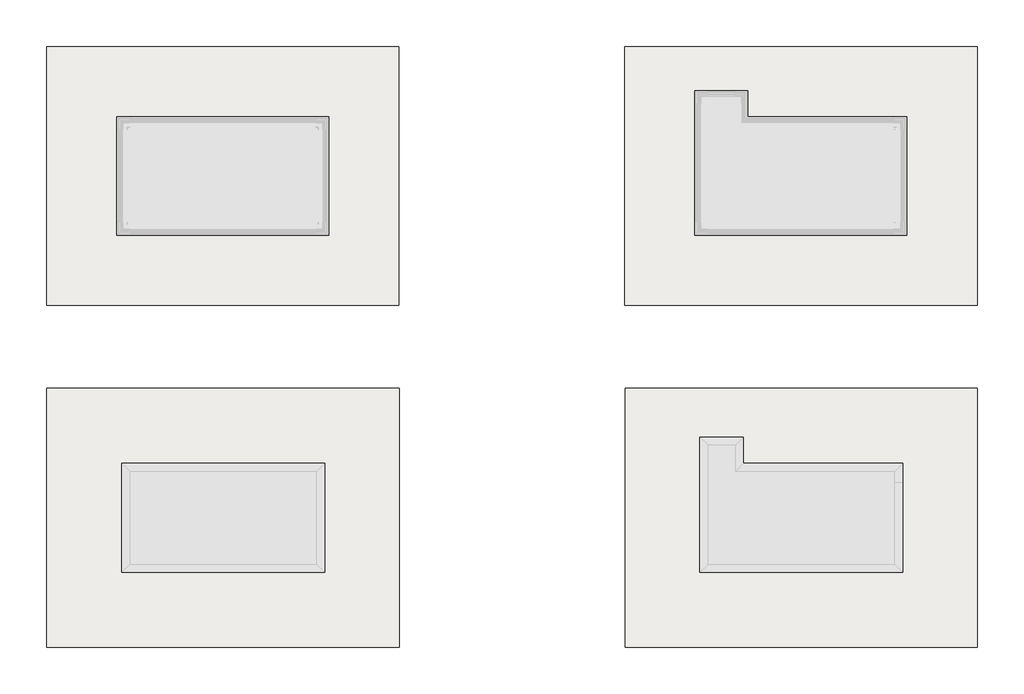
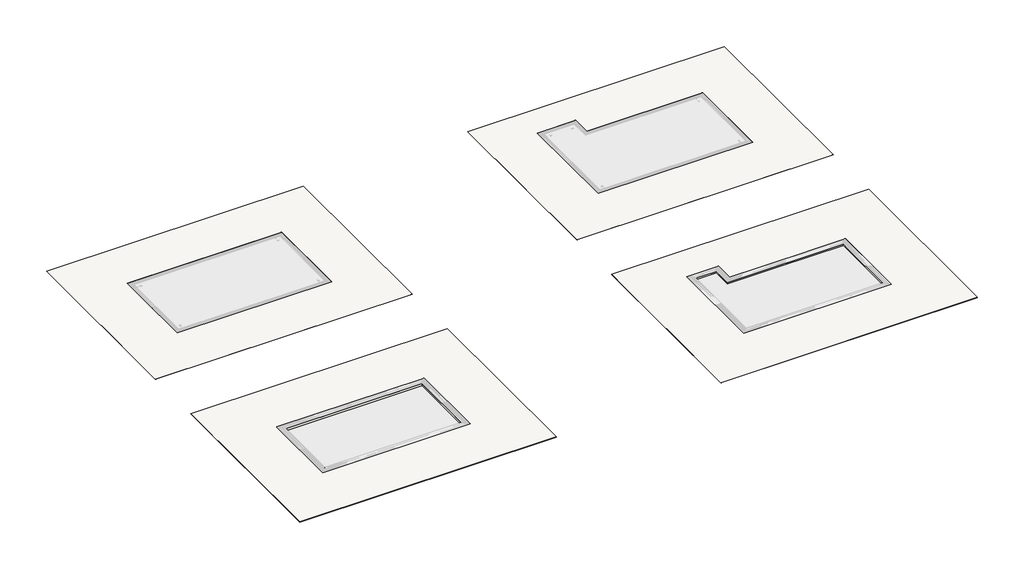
# One storey, part 1 of 8: 21 walls, 8 slabs, 2 stair flights.
"""IFC4 building model written with IfcOpenShell, lengths in millimetres."""

import ifcopenshell
import ifcopenshell.guid

model = None  # the IFC model being written
_history = None  # IfcOwnerHistory: only IFC2X3 demands one
_inside = {}  # id of a spatial element -> (the spatial element, [elements in it])
_under = {}  # id of a project, library or spatial element -> (it, [spatial elements below it])
_declared = {}  # id of a project -> (the project, [libraries it declares])
_typed = {}  # id of a type object -> (the type object, [elements of that type])
_made_of = {}  # id of a material, layer set ... -> (it, [elements and type objects made of it])


def new_model(schema):
    """Start an empty IFC model of exactly this schema.

    Asked for "IFC4X3", IfcOpenShell would pick the latest addendum, in which some entities
    have other attributes; the version numbers below select the first issue.
    IFC2X3 requires an IfcOwnerHistory on every rooted entity: one is made here for all.
    """
    global model, _history
    if schema == "IFC4X3":
        model = ifcopenshell.file(schema_version=(4, 3, 0, 0))
    else:
        model = ifcopenshell.file(schema=schema)
    _inside.clear()
    _under.clear()
    _declared.clear()
    _typed.clear()
    _made_of.clear()
    _history = None
    if model.schema == "IFC2X3":
        org = make("IfcOrganization", Name="unknown")
        user = make(
            "IfcPersonAndOrganization",
            ThePerson=make("IfcPerson", FamilyName="unknown"),
            TheOrganization=org,
        )
        app = make(
            "IfcApplication",
            ApplicationDeveloper=org,
            Version="unknown",
            ApplicationFullName="unknown",
            ApplicationIdentifier="unknown",
        )
        _history = make(
            "IfcOwnerHistory",
            OwningUser=user,
            OwningApplication=app,
            ChangeAction="ADDED",
            CreationDate=0,
        )
    return model


def make(cls, **values):
    """One entity of the class cls with the attributes given. An attribute that is None is left unset."""
    return model.create_entity(
        cls, **{name: value for name, value in values.items() if value is not None}
    )


def rooted(cls, **values):
    """An entity with a GlobalId (a new one), such as an element, a storey or a relation."""
    return make(cls, GlobalId=ifcopenshell.guid.new(), OwnerHistory=_history, **values)


def si_unit(unit_type, name, prefix=None):
    """IfcSIUnit, for example si_unit("LENGTHUNIT", "METRE", prefix="MILLI")."""
    return make("IfcSIUnit", UnitType=unit_type, Prefix=prefix, Name=name)


def assignment(units):
    """IfcUnitAssignment: the units of a project."""
    return None if units is None else make("IfcUnitAssignment", Units=units)


def point(xyz):
    """IfcCartesianPoint."""
    return None if xyz is None else make("IfcCartesianPoint", Coordinates=xyz)


def direction(xyz):
    """IfcDirection."""
    return None if xyz is None else make("IfcDirection", DirectionRatios=xyz)


def frame(location, z_axis=None, x_axis=None):
    """IfcAxis2Placement3D, a coordinate frame: its origin and axes. An axis left out is left unset."""
    return make(
        "IfcAxis2Placement3D",
        Location=point(location),
        Axis=direction(z_axis),
        RefDirection=direction(x_axis),
    )


def origin():
    """The frame at (0, 0, 0) with its axes left unset."""
    return frame((0.0, 0.0, 0.0))


def place(relative_to, where):
    """IfcLocalPlacement: puts the frame where relative to a parent placement (None: the world)."""
    return make(
        "IfcLocalPlacement", PlacementRelTo=relative_to, RelativePlacement=where
    )


def context(
    kind, dimensions, precision=None, world=None, true_north=None, identifier=None
):
    """IfcGeometricRepresentationContext, for example the 3D "Model" context."""
    return make(
        "IfcGeometricRepresentationContext",
        ContextIdentifier=identifier,
        ContextType=kind,
        CoordinateSpaceDimension=dimensions,
        Precision=precision,
        WorldCoordinateSystem=world,
        TrueNorth=true_north,
    )


def project(units=None, contexts=None):
    """IfcProject with its units and contexts."""
    return rooted(
        "IfcProject",
        Name="project",
        RepresentationContexts=contexts,
        UnitsInContext=assignment(units),
    )


def spatial(cls, under=None, at=None, **own):
    """A site, building, storey or space (cls), placed at a placement, below another one or the project."""
    s = rooted(cls, ObjectPlacement=at, **own)
    if under is not None:
        _under.setdefault(under.id(), (under, []))[1].append(s)
    return s


def polyline(points):
    """IfcPolyline through the points."""
    return make("IfcPolyline", Points=[point(p) for p in points])


def outline(outer, holes=None, kind="AREA"):
    """IfcArbitraryClosedProfileDef: a profile drawn as a closed curve; with holes, ...WithVoids."""
    if holes is None:
        return make("IfcArbitraryClosedProfileDef", ProfileType=kind, OuterCurve=outer)
    return make(
        "IfcArbitraryProfileDefWithVoids",
        ProfileType=kind,
        OuterCurve=outer,
        InnerCurves=holes,
    )


def extrude(swept, where, along, depth):
    """IfcExtrudedAreaSolid: the profile swept, set in the frame where, extruded along a direction by depth."""
    return make(
        "IfcExtrudedAreaSolid",
        SweptArea=swept,
        Position=where,
        ExtrudedDirection=direction(along),
        Depth=depth,
    )


def faces_of(points, faces, orient=None, outer=None):
    """IfcFace entities. A face is a list of loops; a loop is a list of indices into points, from 0.

    orient and outer hold one flag for each loop. By default every Orientation is true, the
    first loop of a face is its IfcFaceOuterBound and the others are IfcFaceBound.
    """
    made = []
    for i, loops in enumerate(faces):
        bounds = []
        for j, loop in enumerate(loops):
            is_outer = j == 0 if outer is None else outer[i][j]
            bounds.append(
                make(
                    "IfcFaceOuterBound" if is_outer else "IfcFaceBound",
                    Bound=make("IfcPolyLoop", Polygon=[points[k] for k in loop]),
                    Orientation=True if orient is None else orient[i][j],
                )
            )
        made.append(make("IfcFace", Bounds=bounds))
    return made


def faceted_brep(points, faces, orient=None, outer=None, voids=None):
    """IfcFacetedBrep: a solid bounded by flat faces; with voids (closed shells), ...WithVoids."""
    shared = [point(p) for p in points]
    hull = make("IfcClosedShell", CfsFaces=faces_of(shared, faces, orient, outer))
    if voids is None:
        return make("IfcFacetedBrep", Outer=hull)
    return make(
        "IfcFacetedBrepWithVoids",
        Outer=hull,
        Voids=[
            make(cls, CfsFaces=faces_of(shared, fs, o, b)) for cls, fs, o, b in voids
        ],
    )


def shape(context_of_items, identifier, shape_type, items):
    """IfcShapeRepresentation: the items that make up one representation, for example the "Body"."""
    return make(
        "IfcShapeRepresentation",
        ContextOfItems=context_of_items,
        RepresentationIdentifier=identifier,
        RepresentationType=shape_type,
        Items=items,
    )


def made_of(thing, what):
    """Note that an element or type object is made of a material, layer set ...; save() writes the relation."""
    if what is not None:
        _made_of.setdefault(what.id(), (what, []))[1].append(thing)
    return thing


def element(
    cls,
    number,
    at=None,
    inside=None,
    cuts=None,
    type_object=None,
    material=None,
    context=None,
    identifier="Body",
    shape_type=None,
    held_by="IfcProductDefinitionShape",
    body=None,
    shapes=None,
    **own,
):
    """One element of the class cls, such as IfcWall. Its Tag is "e" and its number.

    at: its placement. inside: the storey or other place that contains it. cuts: it is an
    opening in that element (IfcRelVoidsElement). A single representation is given by context,
    identifier, shape_type and body (its items); several are given by shapes. held_by: the class
    of the entity that holds the representations. save() writes the other relations.
    """
    e = rooted(cls, Tag="e%d" % number, ObjectPlacement=at, **own)
    if body is not None:
        shapes = [shape(context, identifier, shape_type, body)]
    if shapes is not None:
        e.Representation = make(held_by, Representations=shapes)
    if inside is not None:
        _inside.setdefault(inside.id(), (inside, []))[1].append(e)
    if cuts is not None:
        rooted(
            "IfcRelVoidsElement", RelatingBuildingElement=cuts, RelatedOpeningElement=e
        )
    if type_object is not None:
        _typed.setdefault(type_object.id(), (type_object, []))[1].append(e)
    return made_of(e, material)


def aggregate(whole, parts):
    """IfcRelAggregates: a whole, such as a stair, and the parts it consists of."""
    return rooted("IfcRelAggregates", RelatingObject=whole, RelatedObjects=parts)


def save(model, path):
    """Write the relations noted so far, then the file.

    IfcRelAggregates (storeys below a building ...), IfcRelContainedInSpatialStructure (elements
    in a storey), IfcRelDefinesByType, IfcRelAssociatesMaterial and IfcRelDeclares: one each for
    every whole, place, type object, material and project.
    """
    for whole, parts in _under.values():
        aggregate(whole, parts)
    for where, things in _inside.values():
        rooted(
            "IfcRelContainedInSpatialStructure",
            RelatedElements=things,
            RelatingStructure=where,
        )
    for kind, things in _typed.values():
        rooted("IfcRelDefinesByType", RelatedObjects=things, RelatingType=kind)
    for what, things in _made_of.values():
        rooted("IfcRelAssociatesMaterial", RelatedObjects=things, RelatingMaterial=what)
    for by, libraries in _declared.values():
        rooted("IfcRelDeclares", RelatingContext=by, RelatedDefinitions=libraries)
    model.write(path)


model = new_model("IFC4")

# Units and contexts
model_context = context("Model", 3, world=origin())
ifc_project = project(units=[si_unit("LENGTHUNIT", "METRE", prefix="MILLI")], contexts=[model_context])

# Site, building, storey
site = spatial("IfcSite", under=ifc_project)
building = spatial("IfcBuilding", under=site)
storey = spatial("IfcBuildingStorey", under=building, Name="EXAGRES_Serie ROCA POLAR_Piscinas_ejemplo", Elevation=14000.0)

# Slabs
placement = place(None, origin())
element("IfcSlab", 1, ObjectType="Exagres_Roca_Polar_Piscina_33x66,5_C3", at=placement, inside=storey, context=model_context, shape_type="Brep", body=[
    faceted_brep([(-3428.0785975, -5397.8174758, 12490.0), (-3428.0785975, -5397.8174758, 12500.0), (-3428.0785975, -9857.8197013, 12500.0), (-3428.0785975, -9857.8197013, 12490.0), (-5658.0797103, -9857.8197013, 12500.0), (-9658.0797103, -9857.8197013, 13500.0), (-11888.0808231, -9857.8197013, 13500.0), (-11888.0808231, -9857.8197013, 13490.0), (-9658.0797103, -9857.8197013, 13490.0), (-5658.0797103, -9857.8197013, 12490.0), (-11888.0808231, -5397.8174758, 13500.0), (-11888.0808231, -5397.8174758, 13490.0), (-9658.0797103, -5397.8174758, 13500.0), (-5658.0797103, -5397.8174758, 12500.0), (-5658.0797103, -5397.8174758, 12490.0), (-9658.0797103, -5397.8174758, 13490.0), (-9658.0797103, -9627.8185886, 13500.0), (-5658.0797103, -9627.8185886, 12500.0)], [[[0, 1, 2, 3]], [[3, 2, 4, 5, 6, 7, 8, 9]], [[7, 6, 10, 11]], [[11, 10, 12, 13, 1, 0, 14, 15]], [[10, 6, 5, 16, 12]], [[11, 15, 8, 7]], [[2, 1, 13, 17, 4]], [[3, 9, 14, 0]], [[5, 4, 17, 13, 12, 16]], [[8, 15, 14, 9]]]),
])
element("IfcSlab", 2, ObjectType="Exagres_Roca_Polar_Base_33x66,5_C3", at=placement, inside=storey, context=model_context, shape_type="SweptSolid", body=[
    extrude(outline(polyline([(-128.0785975, -2097.8174758), (-128.0785975, -13157.8197013), (-15188.0808231, -13157.8197013), (-15188.0808231, -2097.8174758), (-128.0785975, -2097.8174758)]), holes=[polyline([(-3128.0785975, -5097.8174758), (-12188.0808231, -5097.8174758), (-12188.0808231, -10157.8197013), (-3128.0785975, -10157.8197013), (-3128.0785975, -5097.8174758)])]), frame((0.0, 0.0, 14020.0), z_axis=(0.0, 0.0, 1.0), x_axis=(1.0, 0.0, 0.0)), (0.0, 0.0, 1.0), 10.0),
])
element("IfcSlab", 3, ObjectType="Exagres_Roca_Polar_Piscina_33x66,5_C3", at=placement, inside=storey, context=model_context, shape_type="SweptSolid", body=[
    extrude(outline(polyline([(12490.0, 21271.9214025), (12500.0, 21271.9214025), (12500.0, 19041.9202897), (13500.0, 15041.9202897), (13500.0, 12811.9191769), (13490.0, 12811.9191769), (13490.0, 15041.9202897), (12490.0, 19041.9202897), (12490.0, 21271.9214025)])), frame((0.0, -9857.8197013, 0.0), z_axis=(0.0, 1.0, 0.0), x_axis=(0.0, 0.0, 1.0)), (0.0, 0.0, 1.0), 4460.0022255),
])
element("IfcSlab", 4, ObjectType="Exagres_Roca_Polar_Base_33x66,5_C3", at=placement, inside=storey, context=model_context, shape_type="SweptSolid", body=[
    extrude(outline(polyline([(24571.9214025, -2097.8174758), (24571.9214025, -13157.8197013), (9511.9191769, -13157.8197013), (9511.9191769, -2097.8174758), (24571.9214025, -2097.8174758)]), holes=[polyline([(21571.9214025, -5097.8174758), (14771.9214025, -5097.8174758), (14771.9214025, -3977.8185886), (12511.9191769, -3977.8185886), (12511.9191769, -10157.8197013), (21571.9214025, -10157.8197013), (21571.9214025, -5097.8174758)])]), frame((0.0, 0.0, 14020.0), z_axis=(0.0, 0.0, 1.0), x_axis=(1.0, 0.0, 0.0)), (0.0, 0.0, 1.0), 10.0),
])
element("IfcSlab", 5, ObjectType="Exagres_Roca_Polar_Piscina_33x66,5_C3", at=placement, inside=storey, context=model_context, shape_type="SweptSolid", body=[
    extrude(outline(polyline([(12490.0, -3410.0562124), (12500.0, -3410.0562124), (12500.0, -5640.0573251), (13500.0, -9640.0573251), (13500.0, -11870.0584379), (13490.0, -11870.0584379), (13490.0, -9640.0573251), (12490.0, -5640.0573251), (12490.0, -3410.0562124)])), frame((0.0, -24466.0925734, 0.0), z_axis=(0.0, 1.0, 0.0), x_axis=(0.0, 0.0, 1.0)), (0.0, 0.0, 1.0), 4460.0022255),
])
element("IfcSlab", 6, ObjectType="Exagres_Roca_Polar_Base_33x33_C3", at=placement, inside=storey, context=model_context, shape_type="SweptSolid", body=[
    extrude(outline(polyline([(-110.0562124, -16706.0903478), (-110.0562124, -27766.0925734), (-15170.0584379, -27766.0925734), (-15170.0584379, -16706.0903478), (-110.0562124, -16706.0903478)]), holes=[polyline([(-3310.0573251, -19906.0914606), (-11970.0573251, -19906.0914606), (-11970.0573251, -24566.0914606), (-3310.0573251, -24566.0914606), (-3310.0573251, -19906.0914606)])]), frame((0.0, 0.0, 14020.0), z_axis=(0.0, 0.0, 1.0), x_axis=(1.0, 0.0, 0.0)), (0.0, 0.0, 1.0), 10.0),
])
element("IfcSlab", 7, ObjectType="Exagres_Roca_Polar_Piscina_33x66,5_C3", at=placement, inside=storey, context=model_context, shape_type="Brep", body=[
    faceted_brep([(21289.9437876, -20006.0903478, 12490.0), (21289.9437876, -20006.0903478, 12500.0), (21289.9437876, -24466.0925734, 12500.0), (21289.9437876, -24466.0925734, 12490.0), (19059.9426749, -24466.0925734, 12500.0), (15059.9426749, -24466.0925734, 13500.0), (12829.9415621, -24466.0925734, 13500.0), (12829.9415621, -24466.0925734, 13490.0), (15059.9426749, -24466.0925734, 13490.0), (19059.9426749, -24466.0925734, 12490.0), (12829.9415621, -20006.0903478, 13500.0), (12829.9415621, -20006.0903478, 13490.0), (15059.9426749, -20006.0903478, 13500.0), (19059.9426749, -20006.0903478, 12500.0), (19059.9426749, -20006.0903478, 12490.0), (15059.9426749, -20006.0903478, 13490.0), (15059.9426749, -24461.0914606, 13500.0), (15059.9426749, -24236.0914606, 13500.0), (15059.9426749, -20236.0914606, 13500.0), (15059.9426749, -20011.0914606, 13500.0), (15059.9426749, -24236.0914606, 13490.0), (15059.9426749, -24461.0914606, 13490.0), (19059.9426749, -20011.0914606, 12500.0), (19059.9426749, -20236.0914606, 12500.0)], [[[0, 1, 2, 3]], [[3, 2, 4, 5, 6, 7, 8, 9]], [[7, 6, 10, 11]], [[11, 10, 12, 13, 1, 0, 14, 15]], [[10, 6, 5, 16, 17, 18, 19, 12]], [[11, 15, 20, 21, 8, 7]], [[2, 1, 13, 22, 23, 4]], [[3, 9, 14, 0]], [[5, 4, 23, 22, 13, 12, 19, 18, 17, 16]], [[8, 21, 20, 15, 14, 9]]]),
])
element("IfcSlab", 8, ObjectType="Exagres_Roca_Polar_Base_33x33_C3", at=placement, inside=storey, context=model_context, shape_type="SweptSolid", body=[
    extrude(outline(polyline([(24589.9437876, -16706.0903478), (24589.9437876, -27766.0925734), (9529.9415621, -27766.0925734), (9529.9415621, -16706.0903478), (24589.9437876, -16706.0903478)]), holes=[polyline([(21389.9426749, -19906.0914606), (14589.9426749, -19906.0914606), (14589.9426749, -18786.0914606), (12729.9426749, -18786.0914606), (12729.9426749, -24566.0914606), (21389.9426749, -24566.0914606), (21389.9426749, -19906.0914606)])]), frame((0.0, 0.0, 14020.0), z_axis=(0.0, 0.0, 1.0), x_axis=(1.0, 0.0, 0.0)), (0.0, 0.0, 1.0), 10.0),
])

# Stair flights
element("IfcStairFlight", 9, ObjectType="EXAGRES_Recto - Roca Polar C3", at=placement, inside=storey, context=model_context, shape_type="SolidModel", body=[
    faceted_brep([(13041.9202897, -5332.8185886, 13585.0), (13041.9202897, -5612.8185886, 13585.0), (14241.9202897, -5612.8185886, 13585.0), (14241.9202897, -5332.8185886, 13585.0), (13041.9202897, -5332.8185886, 13500.0), (13041.9202897, -5612.8185886, 13500.0), (14241.9202897, -5612.8185886, 13500.0), (14241.9202897, -5332.8185886, 13500.0), (13041.9202897, -5052.8185886, 13685.0), (13041.9202897, -5332.8185886, 13685.0), (14241.9202897, -5332.8185886, 13685.0), (14241.9202897, -5052.8185886, 13685.0), (13041.9202897, -5052.8185886, 13515.1020715), (13041.9202897, -5095.1043887, 13500.0), (14241.9202897, -5095.1043887, 13500.0), (14241.9202897, -5052.8185886, 13515.1020715), (13041.9202897, -4772.8185886, 13615.1020715), (13041.9202897, -4507.8185886, 13709.7449286), (14241.9202897, -4507.8185886, 13709.7449286), (14241.9202897, -4772.8185886, 13615.1020715), (13041.9202897, -4772.8185886, 13785.0), (13041.9202897, -5052.8185886, 13785.0), (14241.9202897, -5052.8185886, 13785.0), (14241.9202897, -4772.8185886, 13785.0), (13041.9202897, -4507.8185886, 13885.0), (13041.9202897, -4772.8185886, 13885.0), (14241.9202897, -4772.8185886, 13885.0), (14241.9202897, -4507.8185886, 13885.0)], [[[0, 1, 2, 3]], [[1, 0, 4, 5]], [[2, 1, 5, 6]], [[3, 2, 6, 7]], [[8, 9, 10, 11]], [[4, 0, 9, 8, 12, 13]], [[0, 3, 10, 9]], [[3, 7, 14, 15, 11, 10]], [[5, 4, 13, 14, 7, 6]], [[14, 13, 12, 16, 17, 18, 19, 15]], [[20, 21, 22, 23]], [[21, 20, 16, 12, 8]], [[8, 11, 22, 21]], [[23, 22, 11, 15, 19]], [[24, 25, 26, 27]], [[25, 24, 17, 16, 20]], [[20, 23, 26, 25]], [[27, 26, 23, 19, 18]], [[24, 27, 18, 17]]]),
    extrude(outline(polyline([(-5332.8185886, 13585.0), (-5609.9090397, 13585.0), (-5609.9090397, 13588.0), (-5614.8185886, 13588.0), (-5614.8185886, 13581.0), (-5615.8185886, 13581.0), (-5615.8185886, 13575.0), (-5614.8185886, 13575.0), (-5614.8185886, 13567.0), (-5627.8185886, 13567.0), (-5627.8185886, 13600.0), (-5332.8185886, 13600.0), (-5332.8185886, 13585.0)])), frame((13041.9202897, 0.0, 0.0), z_axis=(1.0, 0.0, 0.0), x_axis=(0.0, 1.0, 0.0)), (0.0, 0.0, 1.0), 1200.0),
    extrude(outline(polyline([(14241.9202897, -5612.8185886), (14241.9202897, -5627.8185886), (13041.9202897, -5627.8185886), (13041.9202897, -5612.8185886), (14241.9202897, -5612.8185886)])), frame((0.0, 0.0, 13500.0), z_axis=(0.0, 0.0, 1.0), x_axis=(1.0, 0.0, 0.0)), (0.0, 0.0, 1.0), 67.0),
    extrude(outline(polyline([(14241.9202897, -5332.8185886), (14241.9202897, -5347.8185886), (13041.9202897, -5347.8185886), (13041.9202897, -5332.8185886), (14241.9202897, -5332.8185886)])), frame((0.0, 0.0, 13600.0), z_axis=(0.0, 0.0, 1.0), x_axis=(1.0, 0.0, 0.0)), (0.0, 0.0, 1.0), 67.0),
    extrude(outline(polyline([(-5052.8185886, 13685.0), (-5329.9090397, 13685.0), (-5329.9090397, 13688.0), (-5334.8185886, 13688.0), (-5334.8185886, 13681.0), (-5335.8185886, 13681.0), (-5335.8185886, 13675.0), (-5334.8185886, 13675.0), (-5334.8185886, 13667.0), (-5347.8185886, 13667.0), (-5347.8185886, 13700.0), (-5052.8185886, 13700.0), (-5052.8185886, 13685.0)])), frame((13041.9202897, 0.0, 0.0), z_axis=(1.0, 0.0, 0.0), x_axis=(0.0, 1.0, 0.0)), (0.0, 0.0, 1.0), 1200.0),
    extrude(outline(polyline([(14241.9202897, -5052.8185886), (14241.9202897, -5067.8185886), (13041.9202897, -5067.8185886), (13041.9202897, -5052.8185886), (14241.9202897, -5052.8185886)])), frame((0.0, 0.0, 13700.0), z_axis=(0.0, 0.0, 1.0), x_axis=(1.0, 0.0, 0.0)), (0.0, 0.0, 1.0), 67.0),
    extrude(outline(polyline([(-4772.8185886, 13785.0), (-5049.9090397, 13785.0), (-5049.9090397, 13788.0), (-5054.8185886, 13788.0), (-5054.8185886, 13781.0), (-5055.8185886, 13781.0), (-5055.8185886, 13775.0), (-5054.8185886, 13775.0), (-5054.8185886, 13767.0), (-5067.8185886, 13767.0), (-5067.8185886, 13800.0), (-4772.8185886, 13800.0), (-4772.8185886, 13785.0)])), frame((13041.9202897, 0.0, 0.0), z_axis=(1.0, 0.0, 0.0), x_axis=(0.0, 1.0, 0.0)), (0.0, 0.0, 1.0), 1200.0),
    extrude(outline(polyline([(14241.9202897, -4772.8185886), (14241.9202897, -4787.8185886), (13041.9202897, -4787.8185886), (13041.9202897, -4772.8185886), (14241.9202897, -4772.8185886)])), frame((0.0, 0.0, 13800.0), z_axis=(0.0, 0.0, 1.0), x_axis=(1.0, 0.0, 0.0)), (0.0, 0.0, 1.0), 67.0),
    extrude(outline(polyline([(-4507.8185886, 13885.0), (-4769.9090397, 13885.0), (-4769.9090397, 13888.0), (-4774.8185886, 13888.0), (-4774.8185886, 13881.0), (-4775.8185886, 13881.0), (-4775.8185886, 13875.0), (-4774.8185886, 13875.0), (-4774.8185886, 13867.0), (-4787.8185886, 13867.0), (-4787.8185886, 13900.0), (-4507.8185886, 13900.0), (-4507.8185886, 13885.0)])), frame((13041.9202897, 0.0, 0.0), z_axis=(1.0, 0.0, 0.0), x_axis=(0.0, 1.0, 0.0)), (0.0, 0.0, 1.0), 1200.0),
])
element("IfcStairFlight", 10, ObjectType="EXAGRES_Recto - Roca Polar C3", at=placement, inside=storey, context=model_context, shape_type="SolidModel", body=[
    faceted_brep([(13059.9426749, -19941.0914606, 13585.0), (13059.9426749, -20221.0914606, 13585.0), (14259.9426749, -20221.0914606, 13585.0), (14259.9426749, -19941.0914606, 13585.0), (13059.9426749, -19941.0914606, 13500.0), (13059.9426749, -20221.0914606, 13500.0), (14259.9426749, -20221.0914606, 13500.0), (14259.9426749, -19941.0914606, 13500.0), (13059.9426749, -19661.0914606, 13685.0), (13059.9426749, -19941.0914606, 13685.0), (14259.9426749, -19941.0914606, 13685.0), (14259.9426749, -19661.0914606, 13685.0), (13059.9426749, -19661.0914606, 13515.1020715), (13059.9426749, -19703.3772607, 13500.0), (14259.9426749, -19703.3772607, 13500.0), (14259.9426749, -19661.0914606, 13515.1020715), (13059.9426749, -19381.0914606, 13615.1020715), (13059.9426749, -19116.0914606, 13709.7449286), (14259.9426749, -19116.0914606, 13709.7449286), (14259.9426749, -19381.0914606, 13615.1020715), (13059.9426749, -19381.0914606, 13785.0), (13059.9426749, -19661.0914606, 13785.0), (14259.9426749, -19661.0914606, 13785.0), (14259.9426749, -19381.0914606, 13785.0), (13059.9426749, -19116.0914606, 13885.0), (13059.9426749, -19381.0914606, 13885.0), (14259.9426749, -19381.0914606, 13885.0), (14259.9426749, -19116.0914606, 13885.0)], [[[0, 1, 2, 3]], [[1, 0, 4, 5]], [[2, 1, 5, 6]], [[3, 2, 6, 7]], [[8, 9, 10, 11]], [[4, 0, 9, 8, 12, 13]], [[0, 3, 10, 9]], [[3, 7, 14, 15, 11, 10]], [[5, 4, 13, 14, 7, 6]], [[14, 13, 12, 16, 17, 18, 19, 15]], [[20, 21, 22, 23]], [[21, 20, 16, 12, 8]], [[8, 11, 22, 21]], [[23, 22, 11, 15, 19]], [[24, 25, 26, 27]], [[25, 24, 17, 16, 20]], [[20, 23, 26, 25]], [[27, 26, 23, 19, 18]], [[24, 27, 18, 17]]]),
    extrude(outline(polyline([(-19941.0914606, 13585.0), (-20218.1819117, 13585.0), (-20218.1819117, 13588.0), (-20223.0914606, 13588.0), (-20223.0914606, 13581.0), (-20224.0914606, 13581.0), (-20224.0914606, 13575.0), (-20223.0914606, 13575.0), (-20223.0914606, 13567.0), (-20236.0914606, 13567.0), (-20236.0914606, 13600.0), (-19941.0914606, 13600.0), (-19941.0914606, 13585.0)])), frame((13059.9426749, 0.0, 0.0), z_axis=(1.0, 0.0, 0.0), x_axis=(0.0, 1.0, 0.0)), (0.0, 0.0, 1.0), 1200.0),
    extrude(outline(polyline([(14259.9426749, -20221.0914606), (14259.9426749, -20236.0914606), (13059.9426749, -20236.0914606), (13059.9426749, -20221.0914606), (14259.9426749, -20221.0914606)])), frame((0.0, 0.0, 13500.0), z_axis=(0.0, 0.0, 1.0), x_axis=(1.0, 0.0, 0.0)), (0.0, 0.0, 1.0), 67.0),
    extrude(outline(polyline([(14259.9426749, -19941.0914606), (14259.9426749, -19956.0914606), (13059.9426749, -19956.0914606), (13059.9426749, -19941.0914606), (14259.9426749, -19941.0914606)])), frame((0.0, 0.0, 13600.0), z_axis=(0.0, 0.0, 1.0), x_axis=(1.0, 0.0, 0.0)), (0.0, 0.0, 1.0), 67.0),
    extrude(outline(polyline([(-19661.0914606, 13685.0), (-19938.1819117, 13685.0), (-19938.1819117, 13688.0), (-19943.0914606, 13688.0), (-19943.0914606, 13681.0), (-19944.0914606, 13681.0), (-19944.0914606, 13675.0), (-19943.0914606, 13675.0), (-19943.0914606, 13667.0), (-19956.0914606, 13667.0), (-19956.0914606, 13700.0), (-19661.0914606, 13700.0), (-19661.0914606, 13685.0)])), frame((13059.9426749, 0.0, 0.0), z_axis=(1.0, 0.0, 0.0), x_axis=(0.0, 1.0, 0.0)), (0.0, 0.0, 1.0), 1200.0),
    extrude(outline(polyline([(14259.9426749, -19661.0914606), (14259.9426749, -19676.0914606), (13059.9426749, -19676.0914606), (13059.9426749, -19661.0914606), (14259.9426749, -19661.0914606)])), frame((0.0, 0.0, 13700.0), z_axis=(0.0, 0.0, 1.0), x_axis=(1.0, 0.0, 0.0)), (0.0, 0.0, 1.0), 67.0),
    extrude(outline(polyline([(-19381.0914606, 13785.0), (-19658.1819117, 13785.0), (-19658.1819117, 13788.0), (-19663.0914606, 13788.0), (-19663.0914606, 13781.0), (-19664.0914606, 13781.0), (-19664.0914606, 13775.0), (-19663.0914606, 13775.0), (-19663.0914606, 13767.0), (-19676.0914606, 13767.0), (-19676.0914606, 13800.0), (-19381.0914606, 13800.0), (-19381.0914606, 13785.0)])), frame((13059.9426749, 0.0, 0.0), z_axis=(1.0, 0.0, 0.0), x_axis=(0.0, 1.0, 0.0)), (0.0, 0.0, 1.0), 1200.0),
    extrude(outline(polyline([(14259.9426749, -19381.0914606), (14259.9426749, -19396.0914606), (13059.9426749, -19396.0914606), (13059.9426749, -19381.0914606), (14259.9426749, -19381.0914606)])), frame((0.0, 0.0, 13800.0), z_axis=(0.0, 0.0, 1.0), x_axis=(1.0, 0.0, 0.0)), (0.0, 0.0, 1.0), 67.0),
    extrude(outline(polyline([(-19116.0914606, 13885.0), (-19378.1819117, 13885.0), (-19378.1819117, 13888.0), (-19383.0914606, 13888.0), (-19383.0914606, 13881.0), (-19384.0914606, 13881.0), (-19384.0914606, 13875.0), (-19383.0914606, 13875.0), (-19383.0914606, 13867.0), (-19396.0914606, 13867.0), (-19396.0914606, 13900.0), (-19116.0914606, 13900.0), (-19116.0914606, 13885.0)])), frame((13059.9426749, 0.0, 0.0), z_axis=(1.0, 0.0, 0.0), x_axis=(0.0, 1.0, 0.0)), (0.0, 0.0, 1.0), 1200.0),
])

# Walls
element("IfcWall", 11, ObjectType="Exagres_Piscina Desbordante - Borde 28x66.5 - Rejilla 24.5x24.5 - Roca Polar -", at=placement, inside=storey, context=model_context, shape_type="Brep", body=[
    faceted_brep([(-3681.9797103, -5627.8185886, 14000.0), (-11634.1797103, -5627.8185886, 14000.0), (-11634.1797103, -5627.8185886, 13500.0), (-9658.0797103, -5627.8185886, 13500.0), (-5658.0797103, -5627.8185886, 12500.0), (-3681.9797103, -5627.8185886, 12500.0), (-11634.1797103, -5397.8185886, 13546.2592037), (-3681.9797103, -5397.8185886, 13546.2592037), (-3681.9797103, -5397.8185886, 12500.0), (-5658.0797103, -5397.8185886, 12500.0), (-9658.0797103, -5397.8185886, 13500.0), (-11634.1797103, -5397.8185886, 13500.0), (-3681.9797103, -5617.6307032, 14000.0), (-3681.9797103, -5606.1278443, 14000.0), (-3681.9797103, -5601.3180722, 14000.0), (-3681.9797103, -5597.8185886, 14000.0), (-11634.1797103, -5597.8185886, 14000.0), (-11634.1797103, -5601.3180722, 14000.0), (-11634.1797103, -5606.1278443, 14000.0), (-11634.1797103, -5617.6307032, 14000.0), (-3681.9797103, -5597.8185886, 13546.2592037), (-11634.1797103, -5597.8185886, 13546.2592037)], [[[0, 1, 2, 3, 4, 5]], [[6, 7, 8, 9, 10, 11]], [[1, 0, 12, 13, 14, 15, 16, 17, 18, 19]], [[20, 21, 16, 15]], [[21, 20, 7, 6]], [[15, 14, 13, 12, 0, 5, 8, 7, 20]], [[17, 16, 21, 6, 11, 2, 1, 19, 18]], [[10, 3, 2, 11]], [[4, 9, 8, 5]], [[3, 10, 9, 4]]]),
])
element("IfcWall", 12, ObjectType="Exagres_Piscina Desbordante - Borde 28x66.5 - Rejilla 24.5x24.5 - Roca Polar -", at=placement, inside=storey, context=model_context, shape_type="Brep", body=[
    faceted_brep([(-3658.0797103, -9603.9185886, 14000.0), (-3658.0797103, -5651.7185886, 14000.0), (-3658.0797103, -5651.7185886, 12500.0), (-3658.0797103, -9603.9185886, 12500.0), (-3428.0797103, -5651.7185886, 13546.2592037), (-3428.0797103, -9603.9185886, 13546.2592037), (-3428.0797103, -9603.9185886, 12500.0), (-3428.0797103, -5651.7185886, 12500.0), (-3628.0797103, -9603.9185886, 14000.0), (-3631.5791939, -9603.9185886, 14000.0), (-3636.388966, -9603.9185886, 14000.0), (-3647.8918249, -9603.9185886, 14000.0), (-3628.0797103, -9603.9185886, 13546.2592037), (-3631.5791939, -5651.7185886, 14000.0), (-3628.0797103, -5651.7185886, 14000.0), (-3628.0797103, -5651.7185886, 13546.2592037), (-3647.8918249, -5651.7185886, 14000.0), (-3636.388966, -5651.7185886, 14000.0)], [[[0, 1, 2, 3]], [[4, 5, 6, 7]], [[8, 9, 10, 11, 0, 3, 6, 5, 12]], [[13, 14, 15, 4, 7, 2, 1, 16, 17]], [[1, 0, 11, 10, 9, 8, 14, 13, 17, 16]], [[12, 15, 14, 8]], [[15, 12, 5, 4]], [[3, 2, 7, 6]]]),
])
element("IfcWall", 13, ObjectType="Exagres_Piscina Desbordante - Borde 28x66.5 - Rejilla 24.5x24.5 - Roca Polar -", at=placement, inside=storey, context=model_context, shape_type="Brep", body=[
    faceted_brep([(-11634.1797103, -9627.8185886, 14000.0), (-3681.9797103, -9627.8185886, 14000.0), (-3681.9797103, -9627.8185886, 12500.0), (-5658.0797103, -9627.8185886, 12500.0), (-9658.0797103, -9627.8185886, 13500.0), (-11634.1797103, -9627.8185886, 13500.0), (-3681.9797103, -9857.8185886, 13546.2592037), (-11634.1797103, -9857.8185886, 13546.2592037), (-11634.1797103, -9857.8185886, 13500.0), (-9658.0797103, -9857.8185886, 13500.0), (-5658.0797103, -9857.8185886, 12500.0), (-3681.9797103, -9857.8185886, 12500.0), (-11634.1797103, -9638.0064739, 14000.0), (-11634.1797103, -9649.5093329, 14000.0), (-11634.1797103, -9654.319105, 14000.0), (-11634.1797103, -9657.8185886, 14000.0), (-3681.9797103, -9657.8185886, 14000.0), (-3681.9797103, -9654.319105, 14000.0), (-3681.9797103, -9649.5093329, 14000.0), (-3681.9797103, -9638.0064739, 14000.0), (-11634.1797103, -9657.8185886, 13546.2592037), (-3681.9797103, -9657.8185886, 13546.2592037)], [[[0, 1, 2, 3, 4, 5]], [[6, 7, 8, 9, 10, 11]], [[1, 0, 12, 13, 14, 15, 16, 17, 18, 19]], [[20, 21, 16, 15]], [[21, 20, 7, 6]], [[15, 14, 13, 12, 0, 5, 8, 7, 20]], [[17, 16, 21, 6, 11, 2, 1, 19, 18]], [[4, 9, 8, 5]], [[10, 3, 2, 11]], [[9, 4, 3, 10]]]),
])
element("IfcWall", 14, ObjectType="Exagres_Piscina Desbordante - Borde 28x66.5 - Rejilla 24.5x24.5 - Roca Polar -", at=placement, inside=storey, context=model_context, shape_type="Brep", body=[
    faceted_brep([(-11658.0797103, -5651.7185886, 13500.0), (-11658.0797103, -5651.7185886, 14000.0), (-11658.0797103, -9603.9185886, 14000.0), (-11658.0797103, -9603.9185886, 13500.0), (-11888.0797103, -5651.7185886, 13500.0), (-11888.0797103, -9603.9185886, 13500.0), (-11888.0797103, -9603.9185886, 13546.2592037), (-11888.0797103, -5651.7185886, 13546.2592037), (-11688.0797103, -5651.7185886, 13500.0), (-11688.0797103, -5651.7185886, 13546.2592037), (-11688.0797103, -5651.7185886, 14000.0), (-11684.5802267, -5651.7185886, 14000.0), (-11679.7704546, -5651.7185886, 14000.0), (-11668.2675956, -5651.7185886, 14000.0), (-11668.2675956, -9603.9185886, 14000.0), (-11679.7704546, -9603.9185886, 14000.0), (-11684.5802267, -9603.9185886, 14000.0), (-11688.0797103, -9603.9185886, 14000.0), (-11688.0797103, -9603.9185886, 13546.2592037), (-11688.0797103, -9603.9185886, 13500.0)], [[[0, 1, 2, 3]], [[4, 5, 6, 7]], [[1, 0, 8, 4, 7, 9, 10, 11, 12, 13]], [[3, 2, 14, 15, 16, 17, 18, 6, 5, 19]], [[2, 1, 13, 12, 11, 10, 17, 16, 15, 14]], [[5, 4, 8, 19]], [[0, 3, 19, 8]], [[9, 18, 17, 10]], [[18, 9, 7, 6]]]),
])
element("IfcWall", 15, ObjectType="Exagres_Piscina Desbordante - Borde 28x66.5 - Rejilla 24.5x24.5 - Roca Polar -", at=placement, inside=storey, context=model_context, shape_type="Brep", body=[
    faceted_brep([(21018.0202897, -5627.8185886, 12500.0), (21018.0202897, -5627.8185886, 14000.0), (14265.8202897, -5627.8185886, 14000.0), (14265.8202897, -5627.8185886, 13600.0), (14241.9202897, -5627.8185886, 13600.0), (14241.9202897, -5627.8185886, 13500.0), (15041.9202897, -5627.8185886, 13500.0), (19041.9202897, -5627.8185886, 12500.0), (14471.9202897, -5397.8185886, 13546.2592037), (21018.0202897, -5397.8185886, 13546.2592037), (21018.0202897, -5397.8185886, 12500.0), (19041.9202897, -5397.8185886, 12500.0), (15041.9202897, -5397.8185886, 13500.0), (14471.9202897, -5397.8185886, 13500.0), (21018.0202897, -5601.3180722, 14000.0), (21018.0202897, -5597.8185886, 14000.0), (14771.9202897, -5597.8185886, 14000.0), (14771.9202897, -5603.9185886, 14000.0), (14741.9202897, -5603.9185886, 14000.0), (14741.9202897, -5597.8185886, 14000.0), (14551.9202897, -5597.8185886, 14000.0), (14551.9202897, -5603.9185886, 14000.0), (14521.9202897, -5603.9185886, 14000.0), (14521.9202897, -5597.8185886, 14000.0), (14271.9202897, -5597.8185886, 14000.0), (14268.4208061, -5601.3180722, 14000.0), (14265.8202897, -5603.9185886, 14000.0), (14265.8202897, -5606.1278443, 14000.0), (14265.8202897, -5617.6307032, 14000.0), (21018.0202897, -5617.6307032, 14000.0), (21018.0202897, -5606.1278443, 14000.0), (21018.0202897, -5597.8185886, 13546.2592037), (14271.9202897, -5597.8185886, 13546.2592037), (14521.9202897, -5597.8185886, 13750.0), (14771.9202897, -5597.8185886, 13750.0), (14741.9202897, -5597.8185886, 13800.0), (14551.9202897, -5597.8185886, 13800.0), (14265.8202897, -5603.9185886, 13600.0), (14551.9202897, -5603.9185886, 13800.0), (14741.9202897, -5603.9185886, 13800.0), (14771.9202897, -5603.9185886, 13750.0), (14521.9202897, -5603.9185886, 13750.0)], [[[0, 1, 2, 3, 4, 5, 6, 7]], [[8, 9, 10, 11, 12, 13]], [[14, 15, 16, 17, 18, 19, 20, 21, 22, 23, 24, 25, 26, 27, 28, 2, 1, 29, 30]], [[31, 32, 24, 23, 33, 34, 16, 15]], [[20, 19, 35, 36]], [[32, 31, 9, 8]], [[15, 14, 30, 29, 1, 0, 10, 9, 31]], [[12, 6, 5, 13]], [[7, 11, 10, 0]], [[11, 7, 6, 12]], [[13, 5, 4, 37, 26, 25, 24, 32, 8]], [[3, 37, 4]], [[37, 3, 2, 28, 27, 26]], [[21, 38, 39, 18, 17, 40, 41, 22]], [[38, 21, 20, 36]], [[22, 41, 33, 23]], [[41, 40, 34, 33]], [[40, 17, 16, 34]], [[18, 39, 35, 19]], [[39, 38, 36, 35]]]),
])
element("IfcWall", 16, ObjectType="Exagres_Piscina Desbordante - Borde 28x66.5 - Rejilla 24.5x24.5 - Roca Polar -", at=placement, inside=storey, context=model_context, shape_type="Brep", body=[
    faceted_brep([(21041.9202897, -9603.9185886, 14000.0), (21041.9202897, -5651.7185886, 14000.0), (21041.9202897, -5651.7185886, 12500.0), (21041.9202897, -9603.9185886, 12500.0), (21271.9202897, -5651.7185886, 13546.2592037), (21271.9202897, -9603.9185886, 13546.2592037), (21271.9202897, -9603.9185886, 12500.0), (21271.9202897, -5651.7185886, 12500.0), (21071.9202897, -9603.9185886, 14000.0), (21068.4208061, -9603.9185886, 14000.0), (21063.611034, -9603.9185886, 14000.0), (21052.1081751, -9603.9185886, 14000.0), (21071.9202897, -9603.9185886, 13546.2592037), (21068.4208061, -5651.7185886, 14000.0), (21071.9202897, -5651.7185886, 14000.0), (21071.9202897, -5651.7185886, 13546.2592037), (21052.1081751, -5651.7185886, 14000.0), (21063.611034, -5651.7185886, 14000.0)], [[[0, 1, 2, 3]], [[4, 5, 6, 7]], [[8, 9, 10, 11, 0, 3, 6, 5, 12]], [[13, 14, 15, 4, 7, 2, 1, 16, 17]], [[1, 0, 11, 10, 9, 8, 14, 13, 17, 16]], [[12, 15, 14, 8]], [[15, 12, 5, 4]], [[3, 2, 7, 6]]]),
])
element("IfcWall", 17, ObjectType="Exagres_Piscina Desbordante - Borde 28x66.5 - Rejilla 24.5x24.5 - Roca Polar -", at=placement, inside=storey, context=model_context, shape_type="Brep", body=[
    faceted_brep([(13065.8202897, -9627.8185886, 13490.0), (13065.8202897, -9627.8185886, 14000.0), (21018.0202897, -9627.8185886, 14000.0), (21018.0202897, -9627.8185886, 12490.0), (19044.0191769, -9627.8185886, 12490.0), (15039.8214025, -9627.8185886, 13490.0), (19044.0191769, -9857.8185886, 12490.0), (21018.0202897, -9857.8185886, 12490.0), (21018.0202897, -9857.8185886, 13546.2592037), (13065.8202897, -9857.8185886, 13546.2592037), (13065.8202897, -9857.8185886, 13490.0), (15039.8214025, -9857.8185886, 13490.0), (13065.8202897, -9638.0064739, 14000.0), (13065.8202897, -9649.5093329, 14000.0), (13065.8202897, -9654.319105, 14000.0), (13065.8202897, -9657.8185886, 14000.0), (21018.0202897, -9657.8185886, 14000.0), (21018.0202897, -9654.319105, 14000.0), (21018.0202897, -9649.5093329, 14000.0), (21018.0202897, -9638.0064739, 14000.0), (13065.8202897, -9657.8185886, 13546.2592037), (21018.0202897, -9657.8185886, 13546.2592037), (13065.8202897, -9657.8185886, 13490.0), (21018.0202897, -9657.8185886, 12490.0), (19044.0191769, -9657.8185886, 12490.0), (15039.8214025, -9657.8185886, 13490.0)], [[[0, 1, 2, 3, 4, 5]], [[6, 7, 8, 9, 10, 11]], [[2, 1, 12, 13, 14, 15, 16, 17, 18, 19]], [[20, 21, 16, 15]], [[21, 20, 9, 8]], [[1, 0, 22, 10, 9, 20, 15, 14, 13, 12]], [[3, 2, 19, 18, 17, 16, 21, 8, 7, 23]], [[5, 4, 24, 6, 11, 25]], [[7, 6, 24, 23]], [[4, 3, 23, 24]], [[11, 10, 22, 25]], [[0, 5, 25, 22]]]),
])
element("IfcWall", 18, ObjectType="Exagres_Piscina Desbordante - Borde 28x66.5 - Rejilla 24.5x24.5 - Roca Polar -", at=placement, inside=storey, context=model_context, shape_type="Brep", body=[
    faceted_brep([(13041.9202897, -4531.7185886, 13500.0), (13041.9202897, -4531.7185886, 14000.0), (13041.9202897, -9603.9185886, 14000.0), (13041.9202897, -9603.9185886, 13500.0), (12811.9202897, -4531.7185886, 13500.0), (12811.9202897, -9603.9185886, 13500.0), (12811.9202897, -9603.9185886, 13546.2592037), (12811.9202897, -4531.7185886, 13546.2592037), (13011.9202897, -4531.7185886, 13500.0), (13011.9202897, -4531.7185886, 13546.2592037), (13011.9202897, -4531.7185886, 14000.0), (13015.4197733, -4531.7185886, 14000.0), (13020.2295454, -4531.7185886, 14000.0), (13031.7324044, -4531.7185886, 14000.0), (13031.7324044, -9603.9185886, 14000.0), (13020.2295454, -9603.9185886, 14000.0), (13015.4197733, -9603.9185886, 14000.0), (13011.9202897, -9603.9185886, 14000.0), (13011.9202897, -9603.9185886, 13546.2592037), (13011.9202897, -9603.9185886, 13500.0)], [[[0, 1, 2, 3]], [[4, 5, 6, 7]], [[1, 0, 8, 4, 7, 9, 10, 11, 12, 13]], [[3, 2, 14, 15, 16, 17, 18, 6, 5, 19]], [[2, 1, 13, 12, 11, 10, 17, 16, 15, 14]], [[5, 4, 8, 19]], [[0, 3, 19, 8]], [[9, 18, 17, 10]], [[18, 9, 7, 6]]]),
])
element("IfcWall", 19, ObjectType="Exagres_Piscina Desbordante - Borde 28x66.5 - Rejilla 24.5x24.5 - Roca Polar -", at=placement, inside=storey, context=model_context, shape_type="Brep", body=[
    faceted_brep([(14471.9202897, -5397.8185886, 13500.0), (14471.9202897, -4531.7197013, 13500.0), (14471.9202897, -4531.7197013, 13546.2592037), (14471.9202897, -5397.8185886, 13546.2592037), (14241.9202897, -4531.7197013, 14000.0), (14241.9202897, -4531.7197013, 13500.0), (14241.9202897, -5627.8185886, 13500.0), (14241.9202897, -5627.8185886, 13600.0), (14241.9202897, -5603.9185886, 13600.0), (14241.9202897, -5603.9185886, 14000.0), (14252.1081751, -4531.7197013, 14000.0), (14263.611034, -4531.7197013, 14000.0), (14268.4208061, -4531.7197013, 14000.0), (14271.9202897, -4531.7197013, 14000.0), (14271.9202897, -4531.7197013, 13546.2592037), (14271.9202897, -4531.7197013, 13500.0), (14252.1081751, -5603.9185886, 14000.0), (14263.611034, -5603.9185886, 14000.0), (14265.8202897, -5603.9185886, 14000.0), (14268.4208061, -5601.3180722, 14000.0), (14271.9202897, -5597.8185886, 14000.0), (14271.9202897, -5347.8185886, 14000.0), (14265.8202897, -5347.8185886, 14000.0), (14265.8202897, -5317.8185886, 14000.0), (14271.9202897, -5317.8185886, 14000.0), (14271.9202897, -5127.8185886, 14000.0), (14265.8202897, -5127.8185886, 14000.0), (14265.8202897, -5097.8185886, 14000.0), (14271.9202897, -5097.8185886, 14000.0), (14271.9202897, -5597.8185886, 13500.0), (14271.9202897, -5597.8185886, 13546.2592037), (14271.9202897, -5097.8185886, 13750.0), (14271.9202897, -5347.8185886, 13750.0), (14271.9202897, -5317.8185886, 13800.0), (14271.9202897, -5127.8185886, 13800.0), (14265.8202897, -5603.9185886, 13600.0), (14265.8202897, -5127.8185886, 13800.0), (14265.8202897, -5317.8185886, 13800.0), (14265.8202897, -5347.8185886, 13750.0), (14265.8202897, -5097.8185886, 13750.0)], [[[0, 1, 2, 3]], [[4, 5, 6, 7, 8, 9]], [[5, 4, 10, 11, 12, 13, 14, 2, 1, 15]], [[10, 4, 9, 16, 17, 18, 19, 20, 21, 22, 23, 24, 25, 26, 27, 28, 13, 12, 11]], [[1, 0, 29, 15]], [[30, 14, 13, 28, 31, 32, 21, 20]], [[25, 24, 33, 34]], [[29, 0, 3, 30, 20, 19, 18, 35, 7, 6]], [[6, 5, 15, 29]], [[14, 30, 3, 2]], [[35, 8, 7]], [[8, 35, 18, 17, 16, 9]], [[36, 37, 23, 22, 38, 39, 27, 26]], [[37, 36, 34, 33]], [[36, 26, 25, 34]], [[27, 39, 31, 28]], [[39, 38, 32, 31]], [[38, 22, 21, 32]], [[23, 37, 33, 24]]]),
])
element("IfcWall", 20, ObjectType="Exagres_Piscina Desbordante - Borde 28x66.5 - Rejilla 24.5x24.5 - Roca Polar -", at=placement, inside=storey, context=model_context, shape_type="Brep", body=[
    faceted_brep([(14218.0202897, -4507.8185886, 13500.0), (14218.0202897, -4507.8185886, 14000.0), (13065.8202897, -4507.8185886, 14000.0), (13065.8202897, -4507.8185886, 13500.0), (14218.0202897, -4277.8185886, 13500.0), (13065.8202897, -4277.8185886, 13500.0), (13065.8202897, -4277.8185886, 13546.2592037), (14218.0202897, -4277.8185886, 13546.2592037), (14218.0202897, -4477.8185886, 13500.0), (14218.0202897, -4477.8185886, 13546.2592037), (14218.0202897, -4477.8185886, 14000.0), (14218.0202897, -4481.3180722, 14000.0), (14218.0202897, -4486.1278443, 14000.0), (14218.0202897, -4497.6307032, 14000.0), (13065.8202897, -4497.6307032, 14000.0), (13065.8202897, -4486.1278443, 14000.0), (13065.8202897, -4481.3180722, 14000.0), (13065.8202897, -4477.8185886, 14000.0), (13065.8202897, -4477.8185886, 13546.2592037), (13065.8202897, -4477.8185886, 13500.0)], [[[0, 1, 2, 3]], [[4, 5, 6, 7]], [[1, 0, 8, 4, 7, 9, 10, 11, 12, 13]], [[3, 2, 14, 15, 16, 17, 18, 6, 5, 19]], [[2, 1, 13, 12, 11, 10, 17, 16, 15, 14]], [[5, 4, 8, 19]], [[0, 3, 19, 8]], [[9, 18, 17, 10]], [[18, 9, 7, 6]]]),
])
element("IfcWall", 21, ObjectType="Exagres_Piscina Skimmer - Peldaño 33x33 - Roca Polar -", at=placement, inside=storey, context=model_context, shape_type="Brep", body=[
    faceted_brep([(-3625.0573251, -20236.0914606, 13818.74), (-3625.0573251, -20236.0914606, 14000.0), (-3640.0573251, -20236.0914606, 14000.0), (-11640.0573251, -20236.0914606, 14000.0), (-11655.0573251, -20236.0914606, 14000.0), (-11655.0573251, -20236.0914606, 13818.74), (-11865.0573251, -20236.0914606, 13818.74), (-11865.0573251, -20236.0914606, 13500.0), (-11640.0573251, -20236.0914606, 13500.0), (-9640.0573251, -20236.0914606, 13500.0), (-5640.0573251, -20236.0914606, 12500.0), (-3415.0573251, -20236.0914606, 12500.0), (-3415.0573251, -20236.0914606, 13818.74), (-11865.0573251, -20011.0914606, 13818.74), (-3415.0573251, -20011.0914606, 13818.74), (-3415.0573251, -20011.0914606, 12500.0), (-5640.0573251, -20011.0914606, 12500.0), (-9640.0573251, -20011.0914606, 13500.0), (-11865.0573251, -20011.0914606, 13500.0), (-3625.0573251, -20221.0914606, 13818.74), (-11655.0573251, -20221.0914606, 13818.74), (-11655.0573251, -20221.0914606, 14000.0), (-3625.0573251, -20221.0914606, 14000.0)], [[[0, 1, 2, 3, 4, 5, 6, 7, 8, 9, 10, 11, 12]], [[13, 14, 15, 16, 17, 18]], [[19, 20, 21, 22]], [[0, 19, 22, 1]], [[20, 5, 4, 21]], [[20, 19, 0, 12, 14, 13, 6, 5]], [[22, 21, 4, 3, 2, 1]], [[17, 9, 8, 7, 18]], [[10, 16, 15, 11]], [[9, 17, 16, 10]], [[6, 13, 18, 7]], [[14, 12, 11, 15]]]),
])
element("IfcWall", 22, ObjectType="Exagres_Piscina Skimmer - Peldaño 33x33 - Roca Polar -", at=placement, inside=storey, context=model_context, shape_type="Brep", body=[
    faceted_brep([(-11640.0573251, -24236.0914606, 14000.0), (-3640.0573251, -24236.0914606, 14000.0), (-3640.0573251, -24236.0914606, 12490.0), (-5501.5584379, -24236.0914606, 12490.0), (-9778.5562124, -24236.0914606, 13490.0), (-11640.0573251, -24236.0914606, 13490.0), (-5501.5584379, -24461.0914606, 12490.0), (-3415.0573251, -24461.0914606, 12490.0), (-3415.0573251, -24461.0914606, 13818.74), (-11865.0573251, -24461.0914606, 13818.74), (-11865.0573251, -24461.0914606, 13490.0), (-9778.5562124, -24461.0914606, 13490.0), (-11655.0573251, -24251.0914606, 13818.74), (-3625.0573251, -24251.0914606, 13818.74), (-3625.0573251, -24251.0914606, 14000.0), (-11655.0573251, -24251.0914606, 14000.0), (-11653.0573251, -24249.0914606, 14000.0), (-3627.0573251, -24249.0914606, 14000.0)], [[[0, 1, 2, 3, 4, 5]], [[6, 7, 8, 9, 10, 11]], [[12, 13, 14, 15]], [[13, 12, 9, 8]], [[1, 0, 16, 15, 14, 17]], [[3, 2, 7, 6]], [[4, 3, 6, 11]], [[5, 4, 11, 10]], [[2, 1, 17, 14, 13, 8, 7]], [[0, 5, 10, 9, 12, 15, 16]]]),
])
element("IfcWall", 23, ObjectType="Exagres_Piscina Skimmer - Peldaño 33x33 - Roca Polar -", at=placement, inside=storey, context=model_context, shape_type="Brep", body=[
    faceted_brep([(-11640.0573251, -24236.0914606, 13500.0), (-11640.0573251, -20236.0914606, 13500.0), (-11640.0573251, -20236.0914606, 14000.0), (-11640.0573251, -24236.0914606, 14000.0), (-11865.0573251, -20236.0914606, 13500.0), (-11865.0573251, -24461.0914606, 13500.0), (-11865.0573251, -24461.0914606, 13818.74), (-11865.0573251, -20236.0914606, 13818.74), (-11655.0573251, -20236.0914606, 14000.0), (-11655.0573251, -24251.0914606, 14000.0), (-11653.0573251, -24249.0914606, 14000.0), (-11655.0573251, -20236.0914606, 13818.74), (-11655.0573251, -24251.0914606, 13818.74)], [[[0, 1, 2, 3]], [[4, 5, 6, 7]], [[1, 0, 5, 4]], [[3, 2, 8, 9, 10]], [[11, 12, 9, 8]], [[12, 11, 7, 6]], [[0, 3, 10, 9, 12, 6, 5]], [[2, 1, 4, 7, 11, 8]]]),
])
element("IfcWall", 24, ObjectType="Exagres_Piscina Skimmer - Peldaño 33x33 - Roca Polar -", at=placement, inside=storey, context=model_context, shape_type="Brep", body=[
    faceted_brep([(21059.9426749, -20236.0914606, 14000.0), (14259.9426749, -20236.0914606, 14000.0), (14259.9426749, -20236.0914606, 13500.0), (15059.9426749, -20236.0914606, 13500.0), (19059.9426749, -20236.0914606, 12500.0), (21059.9426749, -20236.0914606, 12500.0), (14484.9426749, -20011.0914606, 13818.74), (21284.9426749, -20011.0914606, 13818.74), (21284.9426749, -20011.0914606, 12500.0), (19059.9426749, -20011.0914606, 12500.0), (15059.9426749, -20011.0914606, 13500.0), (14484.9426749, -20011.0914606, 13500.0), (21074.9426749, -20221.0914606, 13818.74), (14274.9426749, -20221.0914606, 13818.74), (14274.9426749, -20221.0914606, 14000.0), (21074.9426749, -20221.0914606, 14000.0), (21072.9426749, -20223.0914606, 14000.0), (14272.9426749, -20223.0914606, 14000.0)], [[[0, 1, 2, 3, 4, 5]], [[6, 7, 8, 9, 10, 11]], [[12, 13, 14, 15]], [[13, 12, 7, 6]], [[1, 0, 16, 15, 14, 17]], [[14, 13, 6, 11, 2, 1, 17]], [[7, 12, 15, 16, 0, 5, 8]], [[10, 3, 2, 11]], [[4, 9, 8, 5]], [[3, 10, 9, 4]]]),
])
element("IfcWall", 25, ObjectType="Exagres_Piscina Skimmer - Peldaño 33x33 - Roca Polar -", at=placement, inside=storey, context=model_context, shape_type="Brep", body=[
    faceted_brep([(21059.9426749, -20743.5914606, 14000.0), (21059.9426749, -20236.0914606, 14000.0), (21059.9426749, -20236.0914606, 12500.0), (21059.9426749, -20743.5914606, 12500.0), (21284.9426749, -20011.0914606, 13818.74), (21284.9426749, -20743.5914606, 13818.74), (21284.9426749, -20743.5914606, 12500.0), (21284.9426749, -20011.0914606, 12500.0), (21074.9426749, -20743.5914606, 13818.74), (21074.9426749, -20743.5914606, 14000.0), (21072.9426749, -20743.5914606, 14000.0), (21074.9426749, -20221.0914606, 14000.0), (21072.9426749, -20223.0914606, 14000.0), (21074.9426749, -20221.0914606, 13818.74)], [[[0, 1, 2, 3]], [[4, 5, 6, 7]], [[8, 9, 10, 0, 3, 6, 5]], [[1, 0, 10, 9, 11, 12]], [[9, 8, 13, 11]], [[5, 4, 13, 8]], [[11, 13, 4, 7, 2, 1, 12]], [[3, 2, 7, 6]]]),
])
element("IfcWall", 26, ObjectType="Exagres_Piscina Skimmer - Peldaño 33x33 - Roca Polar -", at=placement, inside=storey, context=model_context, shape_type="Brep", body=[
    faceted_brep([(21074.9426749, -24236.0914606, 13818.74), (21284.9426749, -24236.0914606, 13818.74), (21284.9426749, -24236.0914606, 12500.0), (19155.6715844, -24236.0914606, 12500.0), (17677.5646442, -24236.0914606, 12845.5945077), (15059.9426749, -24236.0914606, 13500.0), (13059.9426749, -24236.0914606, 13500.0), (13059.9426749, -24236.0914606, 14000.0), (21059.9426749, -24236.0914606, 14000.0), (21074.9426749, -24236.0914606, 14000.0), (21284.9426749, -24461.0914606, 13818.74), (12834.9426749, -24461.0914606, 13818.74), (12834.9426749, -24461.0914606, 13500.0), (15059.9426749, -24461.0914606, 13500.0), (17677.5646442, -24461.0914606, 12845.5945077), (19155.6715844, -24461.0914606, 12500.0), (21284.9426749, -24461.0914606, 12500.0), (13044.9426749, -24251.0914606, 13818.74), (21074.9426749, -24251.0914606, 13818.74), (21074.9426749, -24251.0914606, 14000.0), (13044.9426749, -24251.0914606, 14000.0), (13046.9426749, -24249.0914606, 14000.0)], [[[0, 1, 2, 3, 4, 5, 6, 7, 8, 9]], [[10, 11, 12, 13, 14, 15, 16]], [[17, 18, 19, 20]], [[18, 17, 11, 10, 1, 0]], [[18, 0, 9, 19]], [[20, 19, 9, 8, 7, 21]], [[4, 3, 15, 14]], [[11, 17, 20, 21, 7, 6, 12]], [[1, 10, 16, 2]], [[5, 13, 12, 6]], [[3, 2, 16, 15]], [[13, 5, 4, 14]]]),
    faceted_brep([(17059.9426749, -24236.0914606, 12990.0), (14921.4437876, -24236.0914606, 13490.0), (15059.9426749, -24236.0914606, 13490.0), (14921.4437876, -24461.0914606, 13490.0), (17059.9426749, -24461.0914606, 12990.0), (15059.9426749, -24461.0914606, 13490.0)], [[[0, 1, 2]], [[3, 4, 5]], [[1, 0, 4, 3]], [[5, 2, 1, 3]], [[2, 5, 4, 0]]]),
])
element("IfcWall", 27, ObjectType="Exagres_Piscina Skimmer - Peldaño 33x33 - Roca Polar -", at=placement, inside=storey, context=model_context, shape_type="Brep", body=[
    faceted_brep([(13059.9426749, -24236.0914606, 13500.0), (13059.9426749, -19116.0914606, 13500.0), (13059.9426749, -19116.0914606, 14000.0), (13059.9426749, -24236.0914606, 14000.0), (12834.9426749, -18891.0914606, 13500.0), (12834.9426749, -24461.0914606, 13500.0), (12834.9426749, -24461.0914606, 13818.74), (12834.9426749, -18891.0914606, 13818.74), (13046.9426749, -19103.0914606, 14000.0), (13044.9426749, -19101.0914606, 14000.0), (13044.9426749, -24251.0914606, 14000.0), (13046.9426749, -24249.0914606, 14000.0), (13044.9426749, -19101.0914606, 13818.74), (13044.9426749, -24251.0914606, 13818.74)], [[[0, 1, 2, 3]], [[4, 5, 6, 7]], [[1, 0, 5, 4]], [[3, 2, 8, 9, 10, 11]], [[12, 13, 10, 9]], [[13, 12, 7, 6]], [[2, 1, 4, 7, 12, 9, 8]], [[0, 3, 11, 10, 13, 6, 5]]]),
])
element("IfcWall", 28, ObjectType="Exagres_Piscina Skimmer - Peldaño 33x33 - Roca Polar -", at=placement, inside=storey, context=model_context, shape_type="Brep", body=[
    faceted_brep([(14484.9426749, -20011.0914606, 13500.0), (14484.9426749, -18891.0914606, 13500.0), (14484.9426749, -18891.0914606, 13818.74), (14484.9426749, -20011.0914606, 13818.74), (14259.9426749, -19116.0914606, 13500.0), (14259.9426749, -20236.0914606, 13500.0), (14259.9426749, -20236.0914606, 14000.0), (14259.9426749, -19116.0914606, 14000.0), (14272.9426749, -20223.0914606, 14000.0), (14274.9426749, -20221.0914606, 14000.0), (14274.9426749, -19101.0914606, 14000.0), (14272.9426749, -19103.0914606, 14000.0), (14274.9426749, -20221.0914606, 13818.74), (14274.9426749, -19101.0914606, 13818.74)], [[[0, 1, 2, 3]], [[4, 5, 6, 7]], [[1, 0, 5, 4]], [[7, 6, 8, 9, 10, 11]], [[12, 13, 10, 9]], [[6, 5, 0, 3, 12, 9, 8]], [[13, 12, 3, 2]], [[1, 4, 7, 11, 10, 13, 2]]]),
])
element("IfcWall", 29, ObjectType="Exagres_Piscina Skimmer - Peldaño 33x33 - Roca Polar -", at=placement, inside=storey, context=model_context, shape_type="Brep", body=[
    faceted_brep([(13059.9426749, -19116.0914606, 13750.0), (14259.9426749, -19116.0914606, 13750.0), (14259.9426749, -19116.0914606, 14000.0), (13059.9426749, -19116.0914606, 14000.0), (14484.9426749, -18891.0914606, 13750.0), (12834.9426749, -18891.0914606, 13750.0), (12834.9426749, -18891.0914606, 13818.74), (14484.9426749, -18891.0914606, 13818.74), (14272.9426749, -19103.0914606, 14000.0), (14274.9426749, -19101.0914606, 14000.0), (13044.9426749, -19101.0914606, 14000.0), (13046.9426749, -19103.0914606, 14000.0), (14274.9426749, -19101.0914606, 13818.74), (13044.9426749, -19101.0914606, 13818.74)], [[[0, 1, 2, 3]], [[4, 5, 6, 7]], [[1, 0, 5, 4]], [[3, 2, 8, 9, 10, 11]], [[12, 13, 10, 9]], [[0, 3, 11, 10, 13, 6, 5]], [[2, 1, 4, 7, 12, 9, 8]], [[13, 12, 7, 6]]]),
])
element("IfcWall", 30, ObjectType="Exagres_Piscina Skimmer - Peldaño 33x33 - Roca Polar -", at=placement, inside=storey, context=model_context, shape_type="Brep", body=[
    faceted_brep([(-3640.0573251, -20236.0914606, 12490.0), (-3640.0573251, -24236.0914606, 12490.0), (-3640.0573251, -24236.0914606, 14000.0), (-3640.0573251, -20236.0914606, 14000.0), (-3415.0573251, -24461.0914606, 12490.0), (-3415.0573251, -20236.0914606, 12490.0), (-3415.0573251, -20236.0914606, 13818.74), (-3415.0573251, -24461.0914606, 13818.74), (-3627.0573251, -24249.0914606, 14000.0), (-3625.0573251, -24251.0914606, 14000.0), (-3625.0573251, -20236.0914606, 14000.0), (-3625.0573251, -24251.0914606, 13818.74), (-3625.0573251, -20236.0914606, 13818.74)], [[[0, 1, 2, 3]], [[4, 5, 6, 7]], [[1, 0, 5, 4]], [[3, 2, 8, 9, 10]], [[2, 1, 4, 7, 11, 9, 8]], [[12, 11, 7, 6]], [[11, 12, 10, 9]], [[0, 3, 10, 12, 6, 5]]]),
])
element("IfcWall", 31, ObjectType="Exagres_Piscina Skimmer - Peldaño 33x33 - Roca Polar -", at=placement, inside=storey, context=model_context, shape_type="Brep", body=[
    faceted_brep([(21059.9426749, -24236.0914606, 14000.0), (21059.9426749, -20743.5914606, 14000.0), (21059.9426749, -20743.5914606, 12500.0), (21059.9426749, -24236.0914606, 12500.0), (21284.9426749, -20743.5914606, 13818.74), (21284.9426749, -24236.0914606, 13818.74), (21284.9426749, -24236.0914606, 12500.0), (21284.9426749, -20743.5914606, 12500.0), (21074.9426749, -24236.0914606, 14000.0), (21074.9426749, -20743.5914606, 14000.0), (21072.9426749, -20743.5914606, 14000.0), (21074.9426749, -20743.5914606, 13818.74), (21074.9426749, -24236.0914606, 13818.74)], [[[0, 1, 2, 3]], [[4, 5, 6, 7]], [[1, 0, 8, 9, 10]], [[11, 4, 7, 2, 1, 10, 9]], [[5, 12, 8, 0, 3, 6]], [[11, 12, 5, 4]], [[12, 11, 9, 8]], [[3, 2, 7, 6]]]),
])

save(model, "model.ifc")
